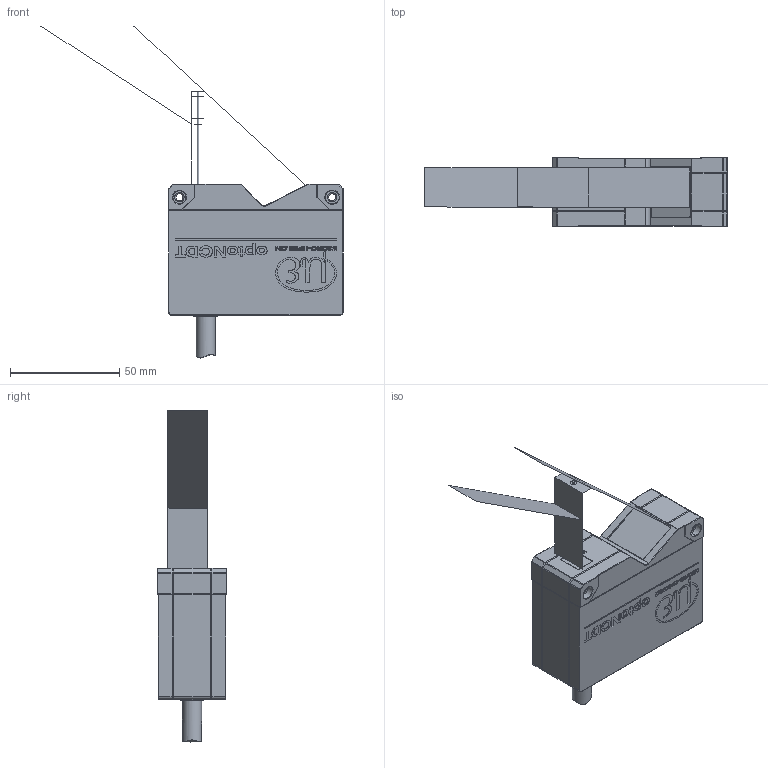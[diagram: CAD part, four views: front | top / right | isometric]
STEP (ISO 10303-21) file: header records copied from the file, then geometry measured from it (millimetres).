
FILE_DESCRIPTION (( 'STEP AP214' ), '1' );
FILE_NAME ('ILD5500-10_Sensormodell_mit_Bauraum.STEP', '2024-11-27T10:03:41', ( '' ), ( '' ), 'SwSTEP 2.0', 'SolidWorks 2022', '' );
FILE_SCHEMA (( 'AUTOMOTIVE_DESIGN' ));
Length unit declared in the file: millimetre
Products named in the file (1): ILD5500-10_Sensormodell_mit_Bauraum
Bounding box: 138.5 x 32 x 152.16 mm (x, y, z)
Surface area: 25740 mm2 (no closed solid volume)
Topology: 0 solids, 12 shells, 1693 faces, 4477 edges, 2920 vertices
Faces by surface type: plane 824, bspline 681, cylinder 116, cone 66, torus 6
Full cylindrical faces by diameter (mm): 0.7 x1, 0.8 x1, 2.4 x2, 3.3 x2, 3.5 x1, 6 x2, 8.8 x1, 10 x2, 10.5 x2
Entity records: 81339 total; most frequent: CARTESIAN_POINT 25823, ORIENTED_EDGE 8812, DIRECTION 5336, EDGE_CURVE 4416, VERTEX_POINT 2900, VECTOR 2748, LINE 2748, EDGE_LOOP 1857
